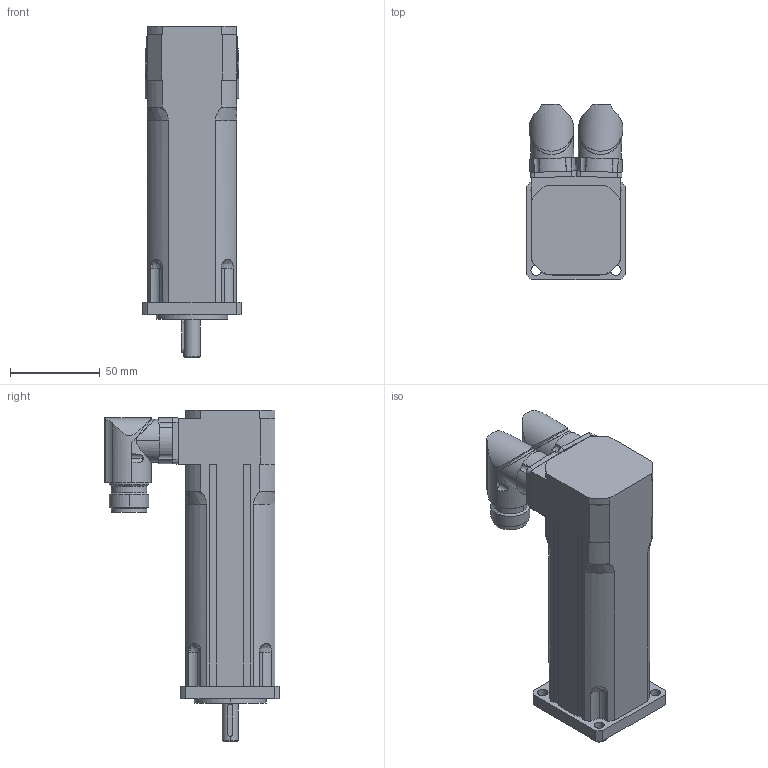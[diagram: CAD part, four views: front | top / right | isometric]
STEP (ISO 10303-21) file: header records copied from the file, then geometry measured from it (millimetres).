
FILE_DESCRIPTION(('STEP AP203'),'2;1');
FILE_NAME('MT2-0060_B.stp','2006-08-28T20:01:53',(''),(''),'2005.2.102','THINKDESIGN','');
FILE_SCHEMA(('CONFIG_CONTROL_DESIGN'));
Length unit declared in the file: millimetre
Bounding box: 55 x 97.7 x 185 mm (x, y, z)
Volume: 432513 mm3; surface area: 58587.5 mm2
Topology: 3 solids, 3 shells, 262 faces, 694 edges, 448 vertices
Faces by surface type: cylinder 116, plane 102, bspline 44
Entity records: 9879 total; most frequent: CARTESIAN_POINT 3284, ORIENTED_EDGE 1388, DIRECTION 1362, EDGE_CURVE 694, AXIS2_PLACEMENT_3D 520, VERTEX_POINT 448, VECTOR 322, LINE 322
